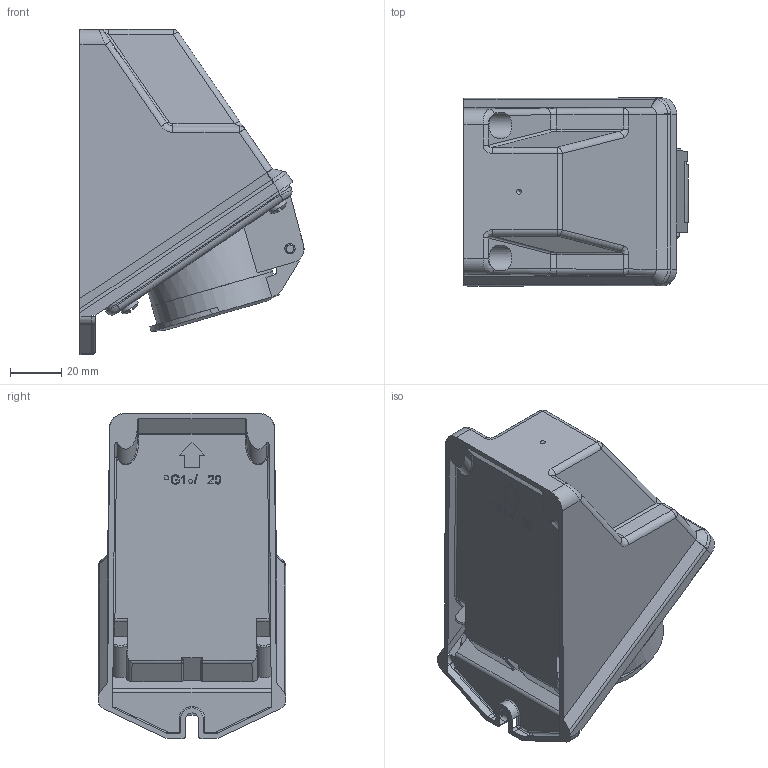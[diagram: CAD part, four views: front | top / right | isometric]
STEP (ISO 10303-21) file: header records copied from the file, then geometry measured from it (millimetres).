
FILE_DESCRIPTION(/* description */ (''),/* implementation_level */ '2;1');
FILE_NAME(/* name */ '4006096.stp',/* time_stamp */ '2016-11-25T08:22:06+01:00',/* author */ (''),/* organization */ (''),/* preprocessor_version */ 'ST-DEVELOPER v16',/* originating_system */ 'SIEMENS PLM Software NX 11.0',/* authorisation */ '');
FILE_SCHEMA (('AUTOMOTIVE_DESIGN { 1 0 10303 214 3 1 1 1 }'));
Length unit declared in the file: millimetre
Products named in the file (1): 4006096_LINKEDEXT_jt
Bounding box: 87.53 x 73.4 x 127 mm (x, y, z)
Surface area: 44466 mm2 (no closed solid volume)
Topology: 0 solids, 24 shells, 270 faces, 964 edges, 671 vertices
Faces by surface type: cylinder 107, plane 100, bspline 36, torus 15, sphere 6, cone 6
Full cylindrical faces by diameter (mm): 1 x1, 2 x2, 3 x1, 4 x1, 7.6 x4, 40 x1, 49 x2
Entity records: 12876 total; most frequent: CARTESIAN_POINT 3219, DIRECTION 1660, ORIENTED_EDGE 1441, EDGE_CURVE 930, VERTEX_POINT 665, AXIS2_PLACEMENT_3D 609, LINE 442, VECTOR 442
